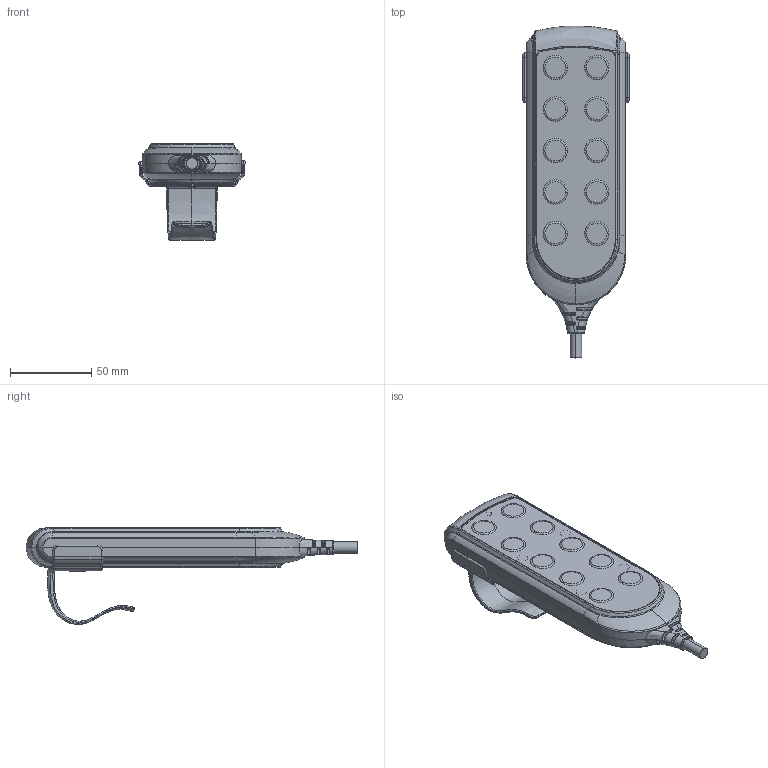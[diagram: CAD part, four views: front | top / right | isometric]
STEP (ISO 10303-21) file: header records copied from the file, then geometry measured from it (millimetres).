
FILE_DESCRIPTION (( 'STEP AP203' ), '1' );
FILE_NAME ('3D_TH-21.SREP.STEP', '2014-03-04T05:57:32', ( '' ), ( '' ), 'SwSTEP 2.0', 'SolidWorks 2010', '' );
FILE_SCHEMA (( 'CONFIG_CONTROL_DESIGN' ));
Products named in the file (1): 3D_TH-21.SREP
Bounding box: 65.25 x 204.1 x 59.47 mm (x, y, z)
Volume: 231684.2 mm3; surface area: 39137 mm2
Topology: 2 solids, 9 shells, 573 faces, 1344 edges, 792 vertices
Faces by surface type: bspline 325, cylinder 137, plane 87, cone 24
Entity records: 46734 total; most frequent: CARTESIAN_POINT 36750, ORIENTED_EDGE 2652, EDGE_CURVE 1326, DIRECTION 1031, B_SPLINE_CURVE_WITH_KNOTS 852, VERTEX_POINT 792, EDGE_LOOP 596, FACE_OUTER_BOUND 573
